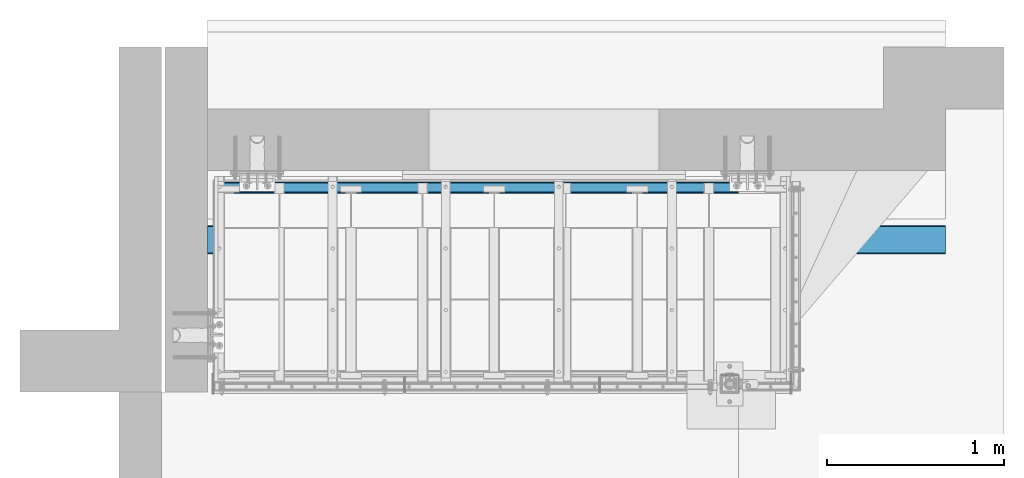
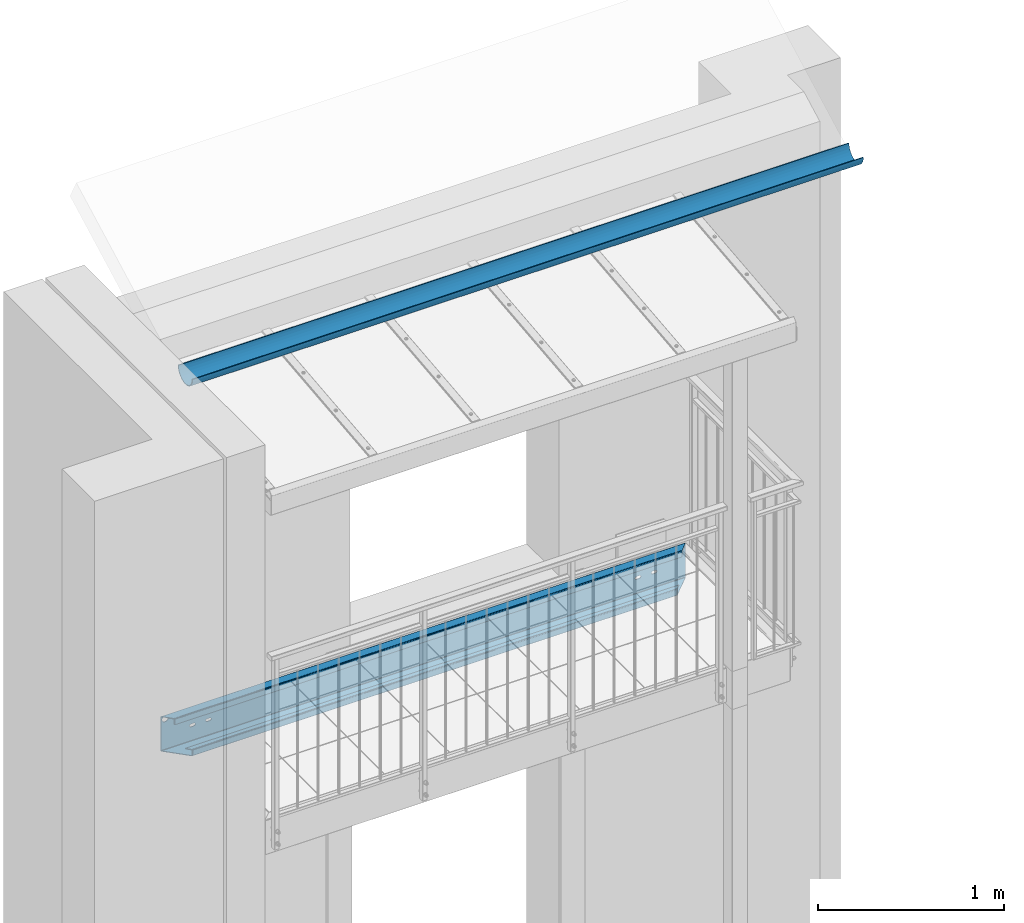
# One storey, part 48 of 162: 2 beams, 13 openings.
"""IFC2X3 building model written with IfcOpenShell, lengths in millimetres."""

from ifc_helpers import new_model, entity, si_unit, converted_unit, point, frame, frame_2d, origin, origin_with_axes, origin_2d_with_axis, place, context, project, spatial, polyline, circle_curve, line_curve, trimmed, segment, composite_curve, circle, outline, extrude, clip, halfspace, material, element, save


model = new_model("IFC2X3")

# Units and contexts
model_context = context("Model", 3, precision=1e-09, world=origin_with_axes())
ifc_project = project(units=[si_unit("LENGTHUNIT", "METRE", prefix="MILLI"), si_unit("AREAUNIT", "SQUARE_METRE"), si_unit("VOLUMEUNIT", "CUBIC_METRE"), converted_unit("PLANEANGLEUNIT", "DEGREE", entity("IfcPlaneAngleMeasure", 0.01745329), si_unit("PLANEANGLEUNIT", "RADIAN"), dimensions=[0, 0, 0, 0, 0, 0, 0])], contexts=[model_context])

# Site, building, storey
site_placement = place(None, origin_with_axes())
site = spatial("IfcSite", under=ifc_project, at=site_placement, Name="Hermannstra?e 1a, 60318 Frankfurt", CompositionType="ELEMENT")
building_placement = place(site_placement, origin_with_axes())
building = spatial("IfcBuilding", under=site, at=building_placement, Name="Struktur 1", CompositionType="ELEMENT")
storey_placement = place(building_placement, origin_with_axes())
storey = spatial("IfcBuildingStorey", under=building, at=storey_placement, Name="Default Storey", CompositionType="ELEMENT", Elevation=0.0)

# Beam, openings
ifc_material_1 = material(Name="S355JR")
beam_1_placement = place(None, frame((6200.616602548, 2605.609373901, 15121.999), z_axis=(-1.0, 0.0, 0.0), x_axis=(0.0, -1.0, 0.0)))
beam_1 = element("IfcBeam", 1, at=beam_1_placement, inside=storey, material=ifc_material_1, Name="-", ObjectType="-", context=model_context, shape_type="Clipping", body=[
    clip(clip(extrude(outline(composite_curve([segment(trimmed(circle_curve(frame_2d((57.999999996, -107.999999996), x_axis=(1.0, 0.0)), 7.000000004), [point((58.0, -115.0))], [point((65.0, -108.0))], True, "CARTESIAN"), True, "CONTINUOUS"), segment(trimmed(line_curve((65.0, -108.0), (0.0, 1.0), 31.0), [point((65.0, -108.0))], [point((65.0, -77.0))], True, "CARTESIAN"), True, "CONTINUOUS"), segment(trimmed(circle_curve(frame_2d((57.999999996, -77.000000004), x_axis=(1.0, 0.0)), 7.000000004), [point((65.0, -77.0))], [point((58.0, -70.0))], True, "CARTESIAN"), True, "CONTINUOUS"), segment(trimmed(line_curve((58.0, -70.0), (-1.0, 0.0), 23.0), [point((58.0, -70.0))], [point((35.0, -70.0))], True, "CARTESIAN"), True, "CONTINUOUS"), segment(trimmed(line_curve((35.0, -70.0), (0.0, -1.0), 4.0), [point((35.0, -70.0))], [point((35.0, -74.0))], True, "CARTESIAN"), True, "CONTINUOUS"), segment(trimmed(line_curve((35.0, -74.0), (1.0, 0.0), 23.0), [point((35.0, -74.0))], [point((58.0, -74.0))], True, "CARTESIAN"), True, "CONTINUOUS"), segment(trimmed(circle_curve(frame_2d((57.999999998, -77.000000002), x_axis=(-1.0, 0.0)), 3.000000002), [point((58.0, -74.0))], [point((61.0, -77.0))], False, "CARTESIAN"), True, "CONTINUOUS"), segment(trimmed(line_curve((61.0, -77.0), (0.0, -1.0), 31.0), [point((61.0, -77.0))], [point((61.0, -108.0))], True, "CARTESIAN"), True, "CONTINUOUS"), segment(trimmed(circle_curve(frame_2d((57.999999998, -107.999999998), x_axis=(-1.0, 0.0)), 3.000000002), [point((61.0, -108.0))], [point((58.0, -111.0))], False, "CARTESIAN"), True, "CONTINUOUS"), segment(trimmed(line_curve((58.0, -111.0), (-1.0, 0.0), 116.0), [point((58.0, -111.0))], [point((-58.0, -111.0))], True, "CARTESIAN"), True, "CONTINUOUS"), segment(trimmed(circle_curve(frame_2d((-57.999999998, -107.999999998), x_axis=(-1.0, 0.0)), 3.000000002), [point((-58.0, -111.0))], [point((-61.0, -108.0))], False, "CARTESIAN"), True, "CONTINUOUS"), segment(trimmed(line_curve((-61.0, -108.0), (0.0, 1.0), 216.0), [point((-61.0, -108.0))], [point((-61.0, 108.0))], True, "CARTESIAN"), True, "CONTINUOUS"), segment(trimmed(circle_curve(frame_2d((-57.999999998, 107.999999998), x_axis=(-1.0, 0.0)), 3.000000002), [point((-61.0, 108.0))], [point((-58.0, 111.0))], False, "CARTESIAN"), True, "CONTINUOUS"), segment(trimmed(line_curve((-58.0, 111.0), (1.0, 0.0), 46.0), [point((-58.0, 111.0))], [point((-12.0, 111.0))], True, "CARTESIAN"), True, "CONTINUOUS"), segment(trimmed(circle_curve(frame_2d((-12.000000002, 107.999999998), x_axis=(-1.0, 0.0)), 3.000000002), [point((-12.0, 111.0))], [point((-9.0, 108.0))], False, "CARTESIAN"), True, "CONTINUOUS"), segment(trimmed(line_curve((-9.0, 108.0), (0.0, -1.0), 33.0), [point((-9.0, 108.0))], [point((-9.0, 75.0))], True, "CARTESIAN"), True, "CONTINUOUS"), segment(trimmed(line_curve((-9.0, 75.0), (1.0, 0.0), 4.0), [point((-9.0, 75.0))], [point((-5.0, 75.0))], True, "CARTESIAN"), True, "CONTINUOUS"), segment(trimmed(line_curve((-5.0, 75.0), (0.0, 1.0), 33.0), [point((-5.0, 75.0))], [point((-5.0, 108.0))], True, "CARTESIAN"), True, "CONTINUOUS"), segment(trimmed(circle_curve(frame_2d((-12.000000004, 107.999999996), x_axis=(1.0, 0.0)), 7.000000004), [point((-5.0, 108.0))], [point((-12.0, 115.0))], True, "CARTESIAN"), True, "CONTINUOUS"), segment(trimmed(line_curve((-12.0, 115.0), (-1.0, 0.0), 46.0), [point((-12.0, 115.0))], [point((-58.0, 115.0))], True, "CARTESIAN"), True, "CONTINUOUS"), segment(trimmed(circle_curve(frame_2d((-57.999999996, 107.999999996), x_axis=(1.0, 0.0)), 7.000000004), [point((-58.0, 115.0))], [point((-65.0, 108.0))], True, "CARTESIAN"), True, "CONTINUOUS"), segment(trimmed(line_curve((-65.0, 108.0), (0.0, -1.0), 216.0), [point((-65.0, 108.0))], [point((-65.0, -108.0))], True, "CARTESIAN"), True, "CONTINUOUS"), segment(trimmed(circle_curve(frame_2d((-57.999999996, -107.999999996), x_axis=(1.0, 0.0)), 7.000000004), [point((-65.0, -108.0))], [point((-58.0, -115.0))], True, "CARTESIAN"), True, "CONTINUOUS"), segment(trimmed(line_curve((-58.0, -115.0), (1.0, 0.0), 116.0), [point((-58.0, -115.0))], [point((58.0, -115.0))], True, "CARTESIAN"), True, "CONTINUOUS")], self_intersect=False)), origin(), (0.0, 0.0, 1.0), 4024.614475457), halfspace(frame((-6.350702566, -15121.999, 3588.656526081), z_axis=(-0.707106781, 0.0, -0.707106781), x_axis=(-0.707106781, 0.0, 0.707106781)), True)), halfspace(frame((4181.958662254, -15121.999, 4624.267314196), z_axis=(-0.707106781, 0.0, 0.707106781), x_axis=(0.707106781, 0.0, 0.707106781)), True)),
])
opening_1_placement = place(beam_1_placement, frame((-66.702560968, 215.1, 374.550741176), z_axis=(0.0, -1.0, 0.0), x_axis=(0.0, 0.0, -1.0)))
element("IfcOpeningElement", 2, at=opening_1_placement, cuts=beam_1, ObjectType="Opening", context=model_context, shape_type="SweptSolid", body=[
    extrude(outline(polyline([(-6.757496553, -8.512020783), (6.757496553, -8.512020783), (6.757496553, 8.512020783), (-6.757496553, 8.512020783), (-6.757496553, -8.512020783)])), origin(), (0.0, 0.0, 1.0), 430.2),
])
opening_2_placement = place(beam_1_placement, frame((-75.214581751, 215.1, 3643.306237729), z_axis=(0.0, 1.0, 0.0), x_axis=(0.0, 0.0, 1.0)))
element("IfcOpeningElement", 3, at=opening_2_placement, cuts=beam_1, ObjectType="Opening", context=model_context, shape_type="SweptSolid", body=[
    extrude(outline(polyline([(0.0, 0.0), (13.514993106, 0.0), (13.514993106, 17.024041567), (0.0, 17.024041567), (0.0, 0.0)])), origin(), (0.0, 0.0, -1.0), 430.2),
])
opening_3_placement = place(beam_1_placement, frame((-60.5, 115.0, 382.310359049), z_axis=(-1.0, 0.0, 0.0), x_axis=(0.0, 0.0, 1.0)))
element("IfcOpeningElement", 4, at=opening_3_placement, cuts=beam_1, ObjectType="Opening", context=model_context, shape_type="SweptSolid", body=[
    extrude(circle(Radius=19.001, at=frame_2d((25.0, -25.0), x_axis=(1.0, 0.0))), origin(), (0.0, 0.0, 1.0), 5.0),
])
opening_4_placement = place(beam_1_placement, frame((-60.5, 90.0, 3636.305116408), z_axis=(1.0, 0.0, 0.0), x_axis=(0.0, 1.0, 0.0)))
element("IfcOpeningElement", 5, at=opening_4_placement, cuts=beam_1, ObjectType="Opening", context=model_context, shape_type="SweptSolid", body=[
    extrude(circle(Radius=19.001, at=frame_2d((0.0, -19.001), x_axis=(1.0, 0.0))), origin(), (0.0, 0.0, -1.0), 5.0),
])
opening_5_placement = place(beam_1_placement, frame((-65.5, 19.999999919, 627.306530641), z_axis=(1.0, 0.0, 0.0), x_axis=(0.0, 0.0, -1.0)))
element("IfcOpeningElement", 6, at=opening_5_placement, cuts=beam_1, ObjectType="Opening", context=model_context, shape_type="SweptSolid", body=[
    extrude(outline(composite_curve([segment(trimmed(line_curve((41.5, 20.999), (1.0, 0.0), 17.0), [point((41.5, 20.999))], [point((58.5, 20.999))], True, "CARTESIAN"), True, "CONTINUOUS"), segment(trimmed(circle_curve(frame_2d((58.5, 30.0), x_axis=(1.0, 0.0)), 9.001), [point((58.5, 20.999))], [point((58.5, 39.001))], True, "CARTESIAN"), True, "CONTINUOUS"), segment(trimmed(line_curve((58.5, 39.001), (-1.0, 0.0), 17.0), [point((58.5, 39.001))], [point((41.5, 39.001))], True, "CARTESIAN"), True, "CONTINUOUS"), segment(trimmed(circle_curve(frame_2d((41.5, 30.0), x_axis=(1.0, 0.0)), 9.001), [point((41.5, 39.001))], [point((41.5, 20.999))], True, "CARTESIAN"), True, "CONTINUOUS")], self_intersect=False)), origin(), (0.0, 0.0, 1.0), 5.0),
])
opening_6_placement = place(beam_1_placement, frame((-65.5, 19.999999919, 627.306530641), z_axis=(1.0, 0.0, 0.0), x_axis=(0.0, 0.0, -1.0)))
element("IfcOpeningElement", 7, at=opening_6_placement, cuts=beam_1, ObjectType="Opening", context=model_context, shape_type="SweptSolid", body=[
    extrude(outline(composite_curve([segment(trimmed(line_curve((-58.5, 20.999), (1.0, 0.0), 17.0), [point((-58.5, 20.999))], [point((-41.5, 20.999))], True, "CARTESIAN"), True, "CONTINUOUS"), segment(trimmed(circle_curve(frame_2d((-41.5, 30.0), x_axis=(1.0, 0.0)), 9.001), [point((-41.5, 20.999))], [point((-41.5, 39.001))], True, "CARTESIAN"), True, "CONTINUOUS"), segment(trimmed(line_curve((-41.5, 39.001), (-1.0, 0.0), 17.0), [point((-41.5, 39.001))], [point((-58.5, 39.001))], True, "CARTESIAN"), True, "CONTINUOUS"), segment(trimmed(circle_curve(frame_2d((-58.5, 30.0), x_axis=(1.0, 0.0)), 9.001), [point((-58.5, 39.001))], [point((-58.5, 20.999))], True, "CARTESIAN"), True, "CONTINUOUS")], self_intersect=False)), origin(), (0.0, 0.0, 1.0), 5.0),
])
opening_7_placement = place(beam_1_placement, frame((-65.5, 19.999999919, 627.306530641), z_axis=(1.0, 0.0, 0.0), x_axis=(0.0, 0.0, -1.0)))
element("IfcOpeningElement", 8, at=opening_7_placement, cuts=beam_1, ObjectType="Opening", context=model_context, shape_type="SweptSolid", body=[
    extrude(outline(composite_curve([segment(trimmed(line_curve((41.5, -39.001), (1.0, 0.0), 17.0), [point((41.5, -39.001))], [point((58.5, -39.001))], True, "CARTESIAN"), True, "CONTINUOUS"), segment(trimmed(circle_curve(frame_2d((58.5, -30.0), x_axis=(1.0, 0.0)), 9.001), [point((58.5, -39.001))], [point((58.5, -20.999))], True, "CARTESIAN"), True, "CONTINUOUS"), segment(trimmed(line_curve((58.5, -20.999), (-1.0, 0.0), 17.0), [point((58.5, -20.999))], [point((41.5, -20.999))], True, "CARTESIAN"), True, "CONTINUOUS"), segment(trimmed(circle_curve(frame_2d((41.5, -30.0), x_axis=(1.0, 0.0)), 9.001), [point((41.5, -20.999))], [point((41.5, -39.001))], True, "CARTESIAN"), True, "CONTINUOUS")], self_intersect=False)), origin(), (0.0, 0.0, 1.0), 5.0),
])
opening_8_placement = place(beam_1_placement, frame((-65.5, 19.999999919, 627.306530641), z_axis=(1.0, 0.0, 0.0), x_axis=(0.0, 0.0, -1.0)))
element("IfcOpeningElement", 9, at=opening_8_placement, cuts=beam_1, ObjectType="Opening", context=model_context, shape_type="SweptSolid", body=[
    extrude(outline(composite_curve([segment(trimmed(line_curve((-58.5, -39.001), (1.0, 0.0), 17.0), [point((-58.5, -39.001))], [point((-41.5, -39.001))], True, "CARTESIAN"), True, "CONTINUOUS"), segment(trimmed(circle_curve(frame_2d((-41.5, -30.0), x_axis=(1.0, 0.0)), 9.001), [point((-41.5, -39.001))], [point((-41.5, -20.999))], True, "CARTESIAN"), True, "CONTINUOUS"), segment(trimmed(line_curve((-41.5, -20.999), (-1.0, 0.0), 17.0), [point((-41.5, -20.999))], [point((-58.5, -20.999))], True, "CARTESIAN"), True, "CONTINUOUS"), segment(trimmed(circle_curve(frame_2d((-58.5, -30.0), x_axis=(1.0, 0.0)), 9.001), [point((-58.5, -20.999))], [point((-58.5, -39.001))], True, "CARTESIAN"), True, "CONTINUOUS")], self_intersect=False)), origin(), (0.0, 0.0, 1.0), 5.0),
])
opening_9_placement = place(beam_1_placement, frame((-65.5, 19.999999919, 3397.306530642), z_axis=(1.0, 0.0, 0.0), x_axis=(0.0, 0.0, -1.0)))
element("IfcOpeningElement", 10, at=opening_9_placement, cuts=beam_1, ObjectType="Opening", context=model_context, shape_type="SweptSolid", body=[
    extrude(outline(composite_curve([segment(trimmed(line_curve((41.5, 20.999), (1.0, 0.0), 17.0), [point((41.5, 20.999))], [point((58.5, 20.999))], True, "CARTESIAN"), True, "CONTINUOUS"), segment(trimmed(circle_curve(frame_2d((58.5, 30.0), x_axis=(1.0, 0.0)), 9.001), [point((58.5, 20.999))], [point((58.5, 39.001))], True, "CARTESIAN"), True, "CONTINUOUS"), segment(trimmed(line_curve((58.5, 39.001), (-1.0, 0.0), 17.0), [point((58.5, 39.001))], [point((41.5, 39.001))], True, "CARTESIAN"), True, "CONTINUOUS"), segment(trimmed(circle_curve(frame_2d((41.5, 30.0), x_axis=(1.0, 0.0)), 9.001), [point((41.5, 39.001))], [point((41.5, 20.999))], True, "CARTESIAN"), True, "CONTINUOUS")], self_intersect=False)), origin(), (0.0, 0.0, 1.0), 5.0),
])
opening_10_placement = place(beam_1_placement, frame((-65.5, 19.999999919, 3397.306530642), z_axis=(1.0, 0.0, 0.0), x_axis=(0.0, 0.0, -1.0)))
element("IfcOpeningElement", 11, at=opening_10_placement, cuts=beam_1, ObjectType="Opening", context=model_context, shape_type="SweptSolid", body=[
    extrude(outline(composite_curve([segment(trimmed(line_curve((-58.5, 20.999), (1.0, 0.0), 17.0), [point((-58.5, 20.999))], [point((-41.5, 20.999))], True, "CARTESIAN"), True, "CONTINUOUS"), segment(trimmed(circle_curve(frame_2d((-41.5, 30.0), x_axis=(1.0, 0.0)), 9.001), [point((-41.5, 20.999))], [point((-41.5, 39.001))], True, "CARTESIAN"), True, "CONTINUOUS"), segment(trimmed(line_curve((-41.5, 39.001), (-1.0, 0.0), 17.0), [point((-41.5, 39.001))], [point((-58.5, 39.001))], True, "CARTESIAN"), True, "CONTINUOUS"), segment(trimmed(circle_curve(frame_2d((-58.5, 30.0), x_axis=(1.0, 0.0)), 9.001), [point((-58.5, 39.001))], [point((-58.5, 20.999))], True, "CARTESIAN"), True, "CONTINUOUS")], self_intersect=False)), origin(), (0.0, 0.0, 1.0), 5.0),
])
opening_11_placement = place(beam_1_placement, frame((-65.5, 19.999999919, 3397.306530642), z_axis=(1.0, 0.0, 0.0), x_axis=(0.0, 0.0, -1.0)))
element("IfcOpeningElement", 12, at=opening_11_placement, cuts=beam_1, ObjectType="Opening", context=model_context, shape_type="SweptSolid", body=[
    extrude(outline(composite_curve([segment(trimmed(line_curve((41.5, -39.001), (1.0, 0.0), 17.0), [point((41.5, -39.001))], [point((58.5, -39.001))], True, "CARTESIAN"), True, "CONTINUOUS"), segment(trimmed(circle_curve(frame_2d((58.5, -30.0), x_axis=(1.0, 0.0)), 9.001), [point((58.5, -39.001))], [point((58.5, -20.999))], True, "CARTESIAN"), True, "CONTINUOUS"), segment(trimmed(line_curve((58.5, -20.999), (-1.0, 0.0), 17.0), [point((58.5, -20.999))], [point((41.5, -20.999))], True, "CARTESIAN"), True, "CONTINUOUS"), segment(trimmed(circle_curve(frame_2d((41.5, -30.0), x_axis=(1.0, 0.0)), 9.001), [point((41.5, -20.999))], [point((41.5, -39.001))], True, "CARTESIAN"), True, "CONTINUOUS")], self_intersect=False)), origin(), (0.0, 0.0, 1.0), 5.0),
])
opening_12_placement = place(beam_1_placement, frame((-65.5, 19.999999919, 3397.306530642), z_axis=(1.0, 0.0, 0.0), x_axis=(0.0, 0.0, -1.0)))
element("IfcOpeningElement", 13, at=opening_12_placement, cuts=beam_1, ObjectType="Opening", context=model_context, shape_type="SweptSolid", body=[
    extrude(outline(composite_curve([segment(trimmed(line_curve((-58.5, -39.001), (1.0, 0.0), 17.0), [point((-58.5, -39.001))], [point((-41.5, -39.001))], True, "CARTESIAN"), True, "CONTINUOUS"), segment(trimmed(circle_curve(frame_2d((-41.5, -30.0), x_axis=(1.0, 0.0)), 9.001), [point((-41.5, -39.001))], [point((-41.5, -20.999))], True, "CARTESIAN"), True, "CONTINUOUS"), segment(trimmed(line_curve((-41.5, -20.999), (-1.0, 0.0), 17.0), [point((-41.5, -20.999))], [point((-58.5, -20.999))], True, "CARTESIAN"), True, "CONTINUOUS"), segment(trimmed(circle_curve(frame_2d((-58.5, -30.0), x_axis=(1.0, 0.0)), 9.001), [point((-58.5, -20.999))], [point((-58.5, -39.001))], True, "CARTESIAN"), True, "CONTINUOUS")], self_intersect=False)), origin(), (0.0, 0.0, 1.0), 5.0),
])

# Beam, opening
ifc_material_2 = material(Name="C20/25")
beam_2_placement = place(None, frame((2523.30836482, 2345.609373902, 17706.462548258), z_axis=(-1.0, 0.0, 0.0), x_axis=(0.0, 1.0, 0.0)))
beam_2 = element("IfcBeam", 14, at=beam_2_placement, inside=storey, material=ifc_material_2, Name="Column", ObjectType="Column", context=model_context, shape_type="SweptSolid", body=[
    extrude(outline(circle_curve(origin_2d_with_axis(), 80.0)), origin(), (0.0, 0.0, -1.0), 4170.0),
])
opening_13_placement = place(beam_2_placement, frame((0.0, 0.0, 100.1), z_axis=(0.0, 0.0, -1.0), x_axis=(1.0, 0.0, 0.0)))
element("IfcOpeningElement", 15, at=opening_13_placement, cuts=beam_2, ObjectType="Opening", context=model_context, shape_type="SweptSolid", body=[
    extrude(outline(composite_curve([segment(trimmed(line_curve((-150.692510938, -0.000999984), (1.0, 0.0), 75.691510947), [point((-150.692510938, -0.000999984))], [point((-75.000999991, -0.000999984))], True, "CARTESIAN"), True, "CONTINUOUS"), segment(trimmed(circle_curve(frame_2d((2e-09, 1.6e-08), x_axis=(1.0, 0.0)), 75.001), [point((-75.000999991, -0.000999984))], [point((75.000999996, -0.000999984))], True, "CARTESIAN"), True, "CONTINUOUS"), segment(trimmed(line_curve((75.000999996, -0.000999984), (1.0, 0.0), 58.672474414), [point((75.000999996, -0.000999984))], [point((133.673474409, -0.000999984))], True, "CARTESIAN"), True, "CONTINUOUS"), segment(trimmed(line_curve((133.673474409, -0.000999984), (0.072374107, 0.997377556), 162.394271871), [point((133.673474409, -0.000999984))], [point((145.426614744, 161.967401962))], True, "CARTESIAN"), True, "CONTINUOUS"), segment(trimmed(line_curve((145.426614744, 161.967401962), (-0.999968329, -0.007958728), 360.055951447), [point((145.426614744, 161.967401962))], [point((-214.617933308, 159.101814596))], True, "CARTESIAN"), True, "CONTINUOUS"), segment(trimmed(line_curve((-214.617933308, 159.101814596), (0.372819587, -0.927903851), 171.464763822), [point((-214.617933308, 159.101814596))], [point((-150.692510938, -0.000999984))], True, "CARTESIAN"), True, "CONTINUOUS")], self_intersect=False)), origin(), (0.0, 0.0, 1.0), 4370.2),
])

save(model, "model.ifc")
